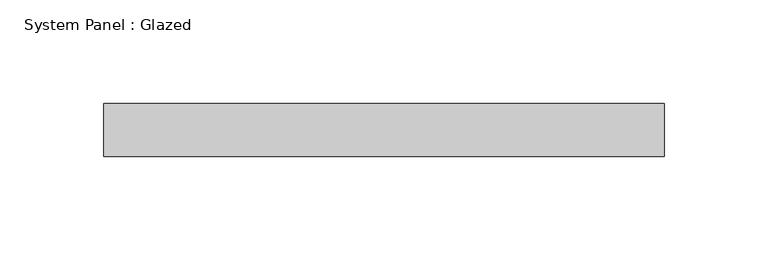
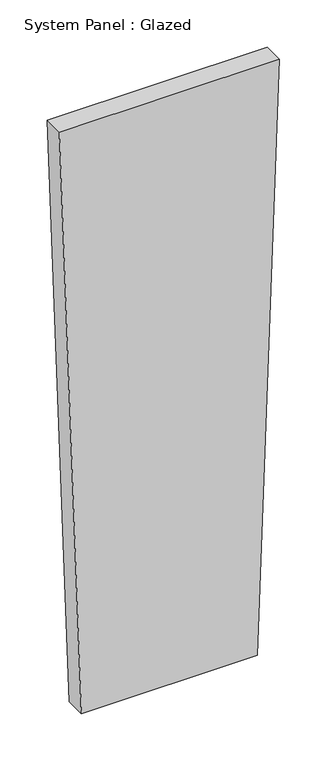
"""IFC4 building model written with IfcOpenShell, lengths in millimetres: plate geometry, System Panel : Glazed."""

from ifc_helpers import new_model, si_unit, frame, origin, place, context, project, spatial, polyline, outline, extrude, source, transform, mapped, element, save


def system_panel_glazed_7c0acb9c(model_context):
    return source(origin(), model_context, "Body", "SweptSolid", [
        extrude(outline(polyline([(0.0, -107.7337738), (0.0, 107.7337738), (761.5238602, 134.6672172), (761.5238602, -134.6672172), (0.0, -107.7337738)])), frame((0.0, -44.45, 0.0), z_axis=(0.0, 1.0, 0.0), x_axis=(0.0, 0.0, 1.0)), (0.0, 0.0, 1.0), 25.4),
    ])


if __name__ == "__main__":
    model = new_model("IFC4")
    model_context = context("Model", 3, world=origin())
    ifc_project = project(units=[si_unit("LENGTHUNIT", "METRE", prefix="MILLI")], contexts=[model_context])
    site = spatial("IfcSite", under=ifc_project)
    building = spatial("IfcBuilding", under=site)
    placement = place(None, origin())
    system_panel_glazed_shape = system_panel_glazed_7c0acb9c(model_context)
    element("IfcPlate", 1, ObjectType="System Panel : Glazed", at=placement, inside=building, context=model_context, shape_type="MappedRepresentation", body=[
        mapped(system_panel_glazed_shape, transform((0.0, 0.0, 0.0), x_axis=(1.0, 0.0, 0.0), y_axis=(0.0, 1.0, 0.0), z_axis=(0.0, 0.0, 1.0))),
    ])
    save(model, "model.ifc")
